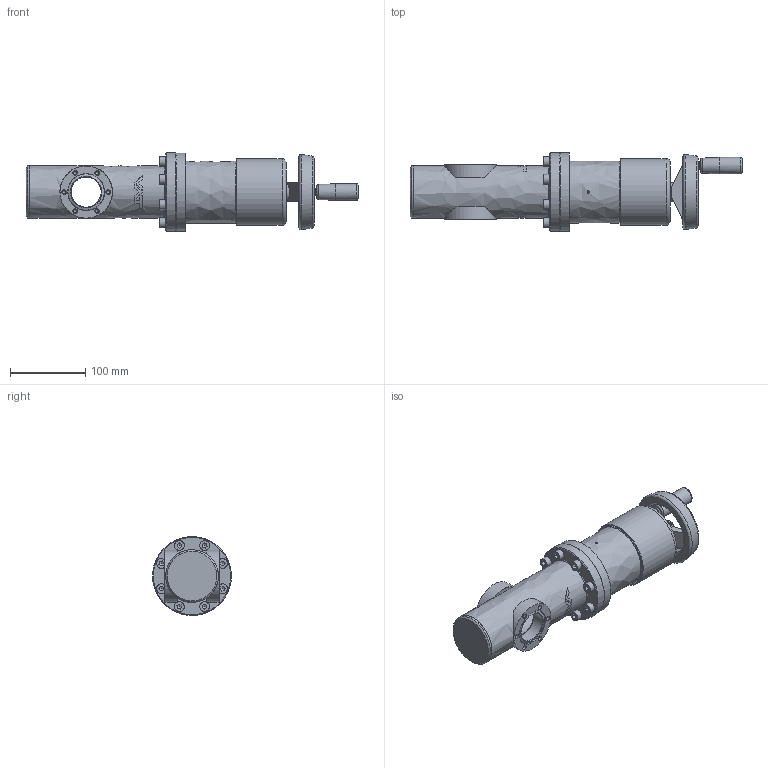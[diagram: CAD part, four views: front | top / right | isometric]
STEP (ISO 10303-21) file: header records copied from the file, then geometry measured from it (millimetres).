
FILE_DESCRIPTION((''),'2;1');
FILE_NAME('O:\MT\MT\Systeme\Cad\Datenexporte\www_vat_ch\84188.stp','2004-06-14T13:56:13',('User'),('SDRC'),'I-DEAS Master Series 9','UNIX','Yes');
FILE_SCHEMA(('CONFIG_CONTROL_DESIGN'));
Length unit declared in the file: millimetre
Assembly tree (19 placements, depth 0):
Bounding box: 441.5 x 104.96 x 104.85 mm (x, y, z)
Volume: 636812.1 mm3; surface area: 290058.7 mm2
Topology: 37 solids, 37 shells, 464 faces, 973 edges, 617 vertices
Faces by surface type: bspline 464
Entity records: 13606 total; most frequent: CARTESIAN_POINT 7322, ORIENTED_EDGE 1404, EDGE_CURVE 702, VERTEX_POINT 454, EDGE_LOOP 446, FACE_OUTER_BOUND 331, ADVANCED_FACE 331, QUASI_UNIFORM_CURVE 190
